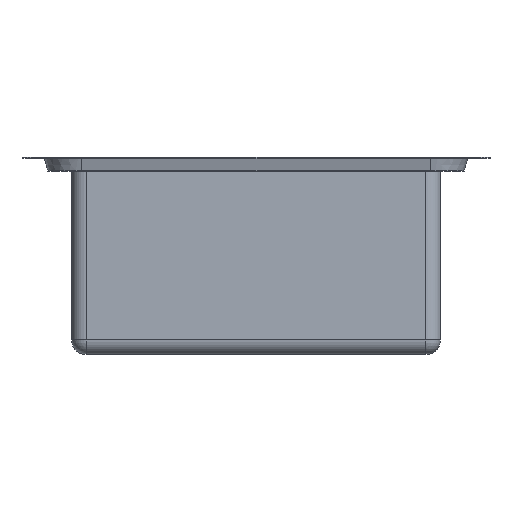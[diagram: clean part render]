
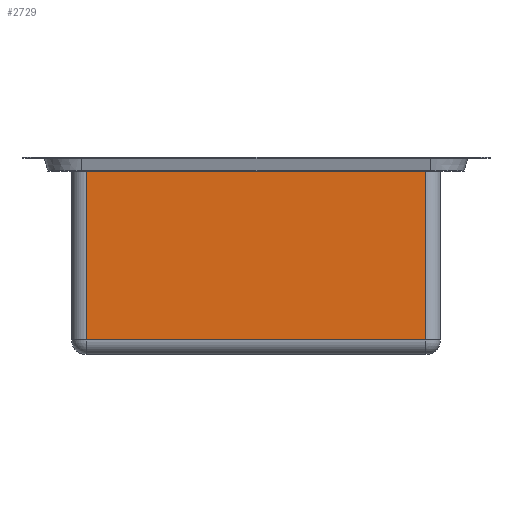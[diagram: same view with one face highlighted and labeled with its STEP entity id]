
A CAD part, left-side view. The second image highlights one B-rep face of the part: STEP entity #2729.
In plain terms, the highlighted planar face has unit normal (-1, 0, 0).
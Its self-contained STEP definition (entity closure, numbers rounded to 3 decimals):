
#2646=CARTESIAN_POINT('Vertex',(-377.5,-185.,5.2)) ;
#2649=CARTESIAN_POINT('Line Origine',(-377.5,-185.,-94.8)) ;
#2653=CARTESIAN_POINT('Vertex',(-377.5,-185.,-178.8)) ;
#2699=CARTESIAN_POINT('Axis2P3D Location',(-377.5,-185.,5.2)) ;
#2704=CARTESIAN_POINT('Line Origine',(-377.5,0.,5.2)) ;
#2708=CARTESIAN_POINT('Vertex',(-377.5,185.,5.2)) ;
#2711=CARTESIAN_POINT('Line Origine',(-377.5,185.,-86.8)) ;
#2715=CARTESIAN_POINT('Vertex',(-377.5,185.,-178.8)) ;
#2718=CARTESIAN_POINT('Line Origine',(-377.5,0.,-178.8)) ;
#2650=DIRECTION('Vector Direction',(0.,0.,1.)) ;
#2700=DIRECTION('Axis2P3D Direction',(-1.,0.,0.)) ;
#2701=DIRECTION('Axis2P3D XDirection',(0.,1.,0.)) ;
#2705=DIRECTION('Vector Direction',(0.,1.,0.)) ;
#2712=DIRECTION('Vector Direction',(0.,0.,-1.)) ;
#2719=DIRECTION('Vector Direction',(0.,1.,0.)) ;
#2702=AXIS2_PLACEMENT_3D('Plane Axis2P3D',#2699,#2700,#2701) ;
#2724=ORIENTED_EDGE('',*,*,#2655,.F.) ;
#2725=ORIENTED_EDGE('',*,*,#2710,.F.) ;
#2726=ORIENTED_EDGE('',*,*,#2717,.T.) ;
#2727=ORIENTED_EDGE('',*,*,#2722,.T.) ;
#2651=VECTOR('Line Direction',#2650,1.) ;
#2706=VECTOR('Line Direction',#2705,1.) ;
#2713=VECTOR('Line Direction',#2712,1.) ;
#2720=VECTOR('Line Direction',#2719,1.) ;
#2729=ADVANCED_FACE('Vasca-CTP',(#2728),#2703,.T.) ;
#2655=EDGE_CURVE('',#2647,#2654,#2652,.F.) ;
#2710=EDGE_CURVE('',#2709,#2647,#2707,.F.) ;
#2717=EDGE_CURVE('',#2709,#2716,#2714,.T.) ;
#2722=EDGE_CURVE('',#2716,#2654,#2721,.F.) ;
#2723=EDGE_LOOP('',(#2724,#2725,#2726,#2727)) ;
#2728=FACE_OUTER_BOUND('',#2723,.T.) ;
#2652=LINE('Line',#2649,#2651) ;
#2707=LINE('Line',#2704,#2706) ;
#2714=LINE('Line',#2711,#2713) ;
#2721=LINE('Line',#2718,#2720) ;
#2703=PLANE('',#2702) ;
#2647=VERTEX_POINT('',#2646) ;
#2654=VERTEX_POINT('',#2653) ;
#2709=VERTEX_POINT('',#2708) ;
#2716=VERTEX_POINT('',#2715) ;
